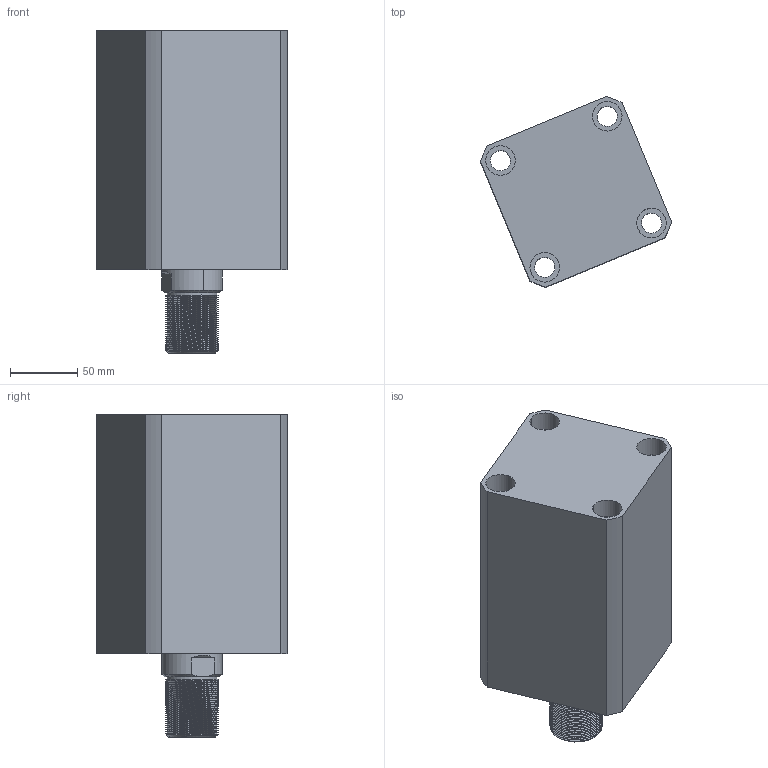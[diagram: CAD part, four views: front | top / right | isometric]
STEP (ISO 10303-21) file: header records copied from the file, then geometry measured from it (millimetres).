
FILE_DESCRIPTION (( 'STEP AP214' ), '1' );
FILE_NAME ('chtb-sd80x100n_asm.STEP', '2018-05-26T08:59:43', ( 'Windows' ), ( 'Microsoft' ), 'SwSTEP 2.0', 'SolidWorks 2015', '' );
FILE_SCHEMA (( 'AUTOMOTIVE_DESIGN' ));
Length unit declared in the file: millimetre
Products named in the file (4): CHTB-SD80X100NHSG; CHTB-SD80X100NBT; CHTB-SD80QG; chtb-sd80x100n_asm
Assembly tree (3 placements, depth 2):
  chtb-sd80x100n_asm
    CHTB-SD80QG
    CHTB-SD80X100NBT
    CHTB-SD80X100NHSG
Bounding box: 142.06 x 142.06 x 240 mm (x, y, z)
Volume: 1847135.3 mm3; surface area: 257993.7 mm2
Topology: 3 solids, 3 shells, 253 faces, 689 edges, 462 vertices
Faces by surface type: cylinder 159, plane 40, cone 20, torus 18, bspline 16
Entity records: 20271 total; most frequent: CARTESIAN_POINT 14293, ORIENTED_EDGE 1370, DIRECTION 1078, EDGE_CURVE 685, VERTEX_POINT 462, AXIS2_PLACEMENT_3D 439, EDGE_LOOP 291, FACE_OUTER_BOUND 253
